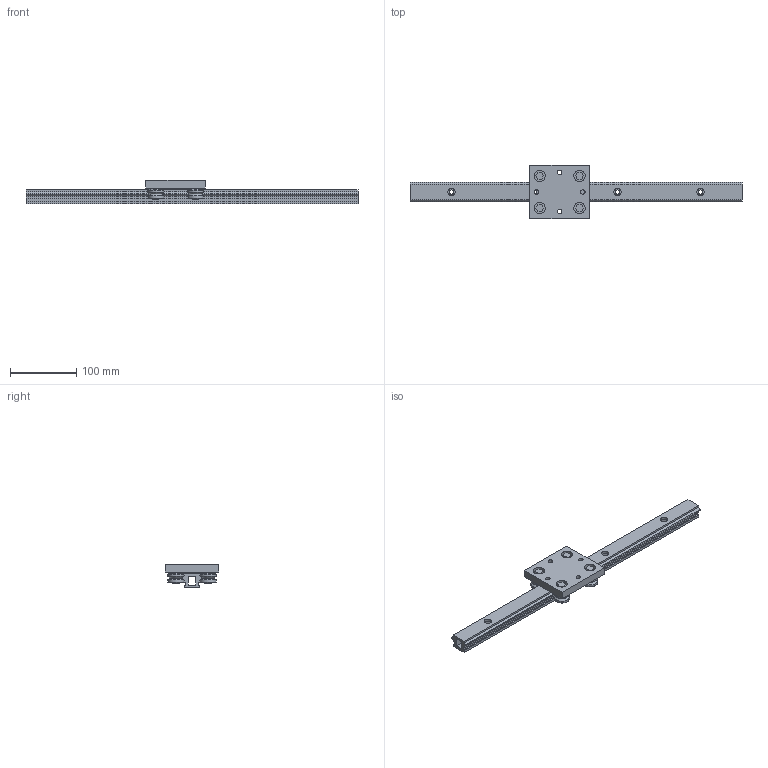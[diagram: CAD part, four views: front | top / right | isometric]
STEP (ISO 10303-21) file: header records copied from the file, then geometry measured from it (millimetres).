
FILE_DESCRIPTION((''),'2;1');
FILE_NAME('D:\製品 (図面)\カタログ用3D\リニアガイド関連\STEP形式\SPDR\SPDR30.stp','2010-06-02T17:09:47',('Tsuchiya'),(''),'Autodesk Inventor 10','Autodesk Inventor 10','');
FILE_SCHEMA(('AUTOMOTIVE_DESIGN { 1 0 10303 214 1 1 1 1 }'));
Length unit declared in the file: millimetre
Products named in the file (3): SPDR30; SPDR301; SPDR302
Assembly tree (2 placements, depth 2):
  SPDR30
    SPDR301
    SPDR302
Bounding box: 500 x 80 x 35.5 mm (x, y, z)
Volume: 274276.3 mm3; surface area: 103303.6 mm2
Topology: 2 solids, 2 shells, 132 faces, 306 edges, 196 vertices
Faces by surface type: plane 75, bspline 22, cylinder 19, cone 16
Full cylindrical faces by diameter (mm): 3.242 x1, 10 x4, 12 x4, 24 x8
Entity records: 3753 total; most frequent: CARTESIAN_POINT 877, DIRECTION 566, ORIENTED_EDGE 496, EDGE_CURVE 248, EDGE_LOOP 226, AXIS2_PLACEMENT_3D 203, VERTEX_POINT 188, VECTOR 160
